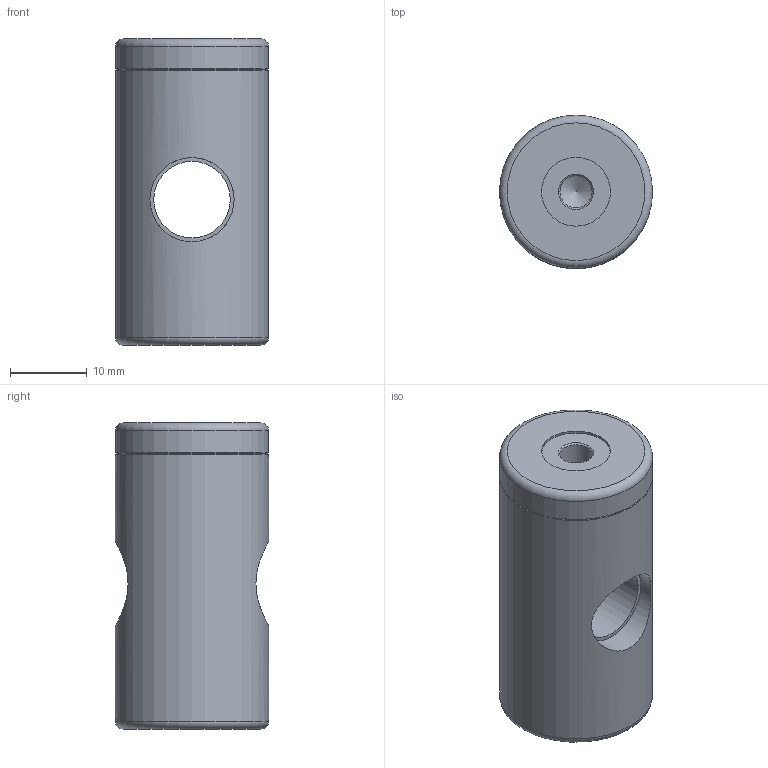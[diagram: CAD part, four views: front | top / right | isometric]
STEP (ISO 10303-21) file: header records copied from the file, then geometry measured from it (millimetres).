
FILE_DESCRIPTION(('STEP AP242'),'1');
FILE_NAME('V.5010 Feststellpatrone.stp','2026-04-23T09:33:35',(' '),(' '),'Spatial InterOp 3D',' ',' ');
FILE_SCHEMA(('AP242_MANAGED_MODEL_BASED_3D_ENGINEERING_MIM_LF {1 0 10303 442 1 1 4}'));
Length unit declared in the file: millimetre
Products named in the file (1): V.5010 Feststellpatrone
Bounding box: 20 x 20 x 40 mm (x, y, z)
Volume: 10782.9 mm3; surface area: 3645.5 mm2
Topology: 1 solids, 1 shells, 19 faces, 36 edges, 22 vertices
Faces by surface type: cylinder 8, plane 5, cone 4, torus 2
Full cylindrical faces by diameter (mm): 4.2 x2, 9 x1, 10 x1, 11 x2, 20 x2
Entity records: 783 total; most frequent: CARTESIAN_POINT 213, DIRECTION 74, EDGE_LOOP 38, ORIENTED_EDGE 38, AXIS2_PLACEMENT_3D 37, FACE_OUTER_BOUND 29, STYLED_ITEM 20, PRESENTATION_STYLE_ASSIGNMENT 20
